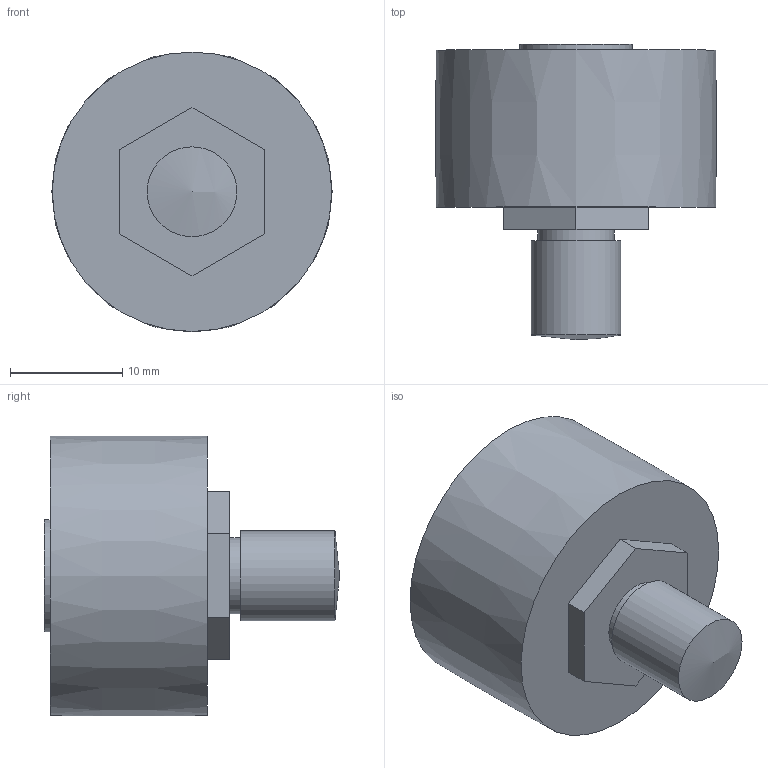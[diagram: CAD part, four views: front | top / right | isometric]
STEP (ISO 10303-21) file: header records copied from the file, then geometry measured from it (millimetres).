
FILE_DESCRIPTION( ( 'STEP AP203' ), '1' );
FILE_NAME( 'p:/temp/worker_148/temp/exporttempdir_4496_27_Q8mGh/format_0/BHR25C.stp', '2021-09-29T07:20:22', ( 'License CC BY-ND 4.0' ), ( 'CADENAS' ), ' ', 'PARTsolutions', ' ' );
FILE_SCHEMA( ( 'CONFIG_CONTROL_DESIGN' ) );
Length unit declared in the file: millimetre
Products named in the file (2): BHR25C; _BHR25C_C
Assembly tree (1 placements, depth 2):
  BHR25C
    _BHR25C_C
Bounding box: 24.99 x 26.3 x 24.95 mm (x, y, z)
Volume: 7628 mm3; surface area: 2469.6 mm2
Topology: 1 solids, 1 shells, 23 faces, 52 edges, 35 vertices
Faces by surface type: plane 18, cylinder 3, bspline 1, sphere 1
Full cylindrical faces by diameter (mm): 6.773 x1, 8 x1, 10 x1
Entity records: 696 total; most frequent: CARTESIAN_POINT 129, DIRECTION 100, ORIENTED_EDGE 88, EDGE_CURVE 44, LINE 36, VECTOR 36, VERTEX_POINT 33, AXIS2_PLACEMENT_3D 32
